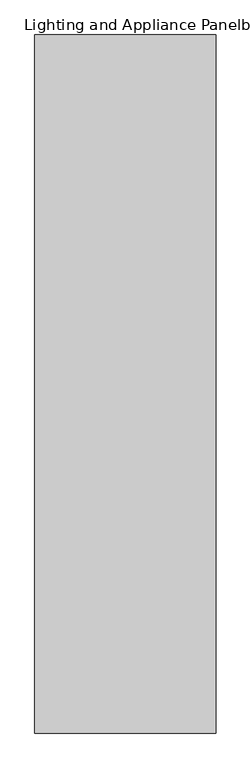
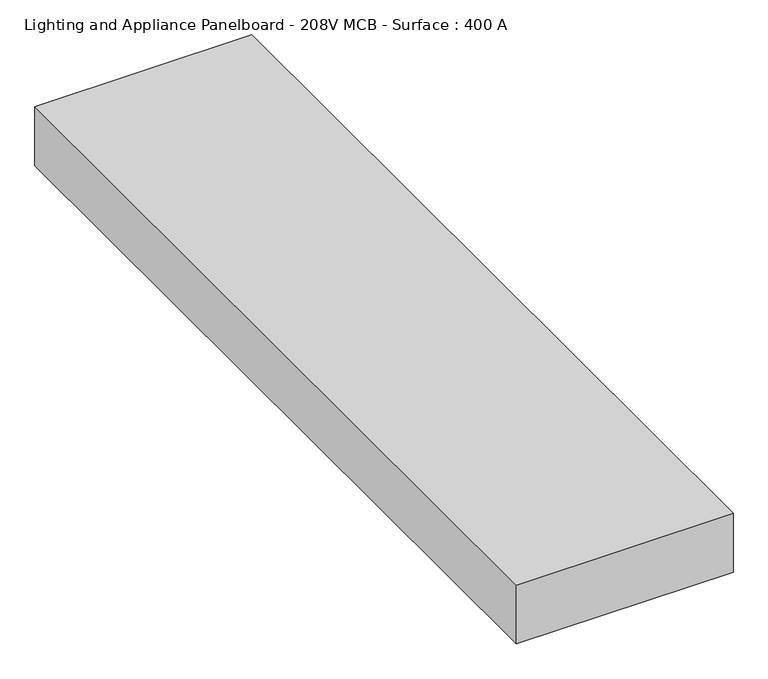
"""IFC4 building model written with IfcOpenShell, lengths in millimetres: proxy geometry, Lighting and Appliance Panelboard - 208V MCB - Surface : 400 A."""

from ifc_helpers import new_model, si_unit, origin, origin_with_axes, place, context, project, spatial, polyline, outline, extrude, source, transform, mapped, element, save


def lighting_and_appliance_panelboard_208v_mcb_surface_400_a_1492eeec(model_context):
    return source(origin(), model_context, "Body", "SweptSolid", [
        extrude(outline(polyline([(349.2594706, 741.7943297), (349.2594706, -1214.0056703), (-158.7405294, -1214.0056703), (-158.7405294, 741.7943297), (349.2594706, 741.7943297)])), origin_with_axes(), (0.0, 0.0, 1.0), 146.05),
    ])


if __name__ == "__main__":
    model = new_model("IFC4")
    model_context = context("Model", 3, world=origin())
    ifc_project = project(units=[si_unit("LENGTHUNIT", "METRE", prefix="MILLI")], contexts=[model_context])
    site = spatial("IfcSite", under=ifc_project)
    building = spatial("IfcBuilding", under=site)
    placement = place(None, origin())
    lighting_and_appliance_panelboard_208v_mcb_surface_400_a_shape = lighting_and_appliance_panelboard_208v_mcb_surface_400_a_1492eeec(model_context)
    element("IfcBuildingElementProxy", 1, Name="Lighting and Appliance Panelboard - 208V MCB - Surface : 400 A", ObjectType="Lighting and Appliance Panelboard - 208V MCB - Surface : 400 A", at=placement, inside=building, context=model_context, shape_type="MappedRepresentation", body=[
        mapped(lighting_and_appliance_panelboard_208v_mcb_surface_400_a_shape, transform((0.0, 0.0, 0.0), x_axis=(1.0, 0.0, 0.0), y_axis=(0.0, 1.0, 0.0), z_axis=(0.0, 0.0, 1.0))),
    ])
    save(model, "model.ifc")
